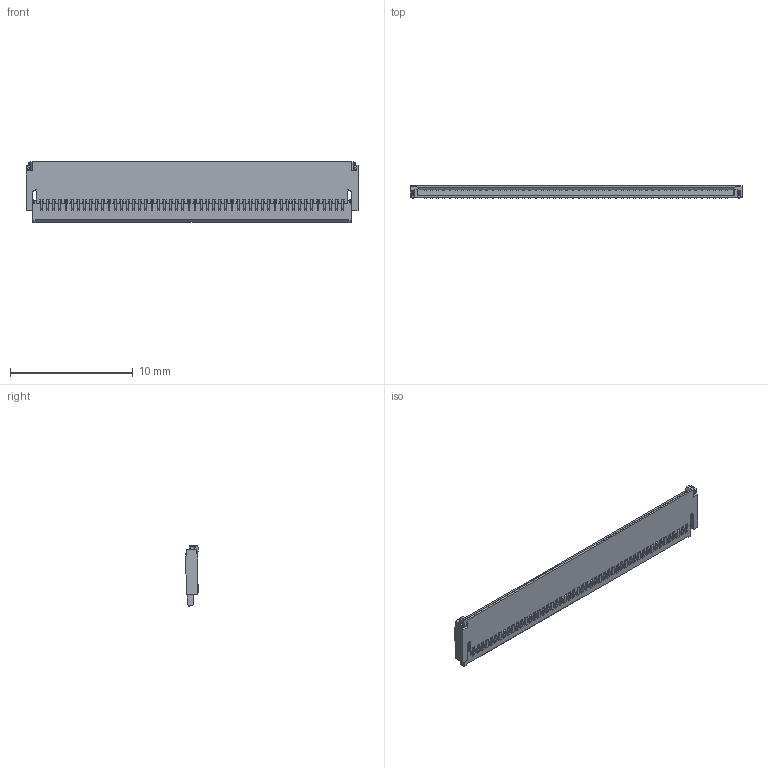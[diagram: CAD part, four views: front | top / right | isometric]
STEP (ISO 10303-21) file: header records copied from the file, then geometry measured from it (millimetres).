
FILE_DESCRIPTION (( 'STEP AP203' ), '1' );
FILE_NAME ('FF14C-50A-R1xB(Close).STEP', '2018-12-25T08:38:04', ( '' ), ( '' ), 'SwSTEP 2.0', 'SolidWorks 2018', '' );
FILE_SCHEMA (( 'CONFIG_CONTROL_DESIGN' ));
Products named in the file (1): FF14C-50A-R1xB(Close)
Bounding box: 27 x 1.04 x 4.93 mm (x, y, z)
Volume: 74 mm3; surface area: 478 mm2
Topology: 1 solids, 1 shells, 2380 faces, 7200 edges, 4727 vertices
Faces by surface type: plane 1994, cylinder 367, bspline 16, cone 3
Entity records: 80520 total; most frequent: CARTESIAN_POINT 15412, ORIENTED_EDGE 14400, DIRECTION 12531, EDGE_CURVE 7200, LINE 6419, VECTOR 6419, VERTEX_POINT 4727, AXIS2_PLACEMENT_3D 3056
